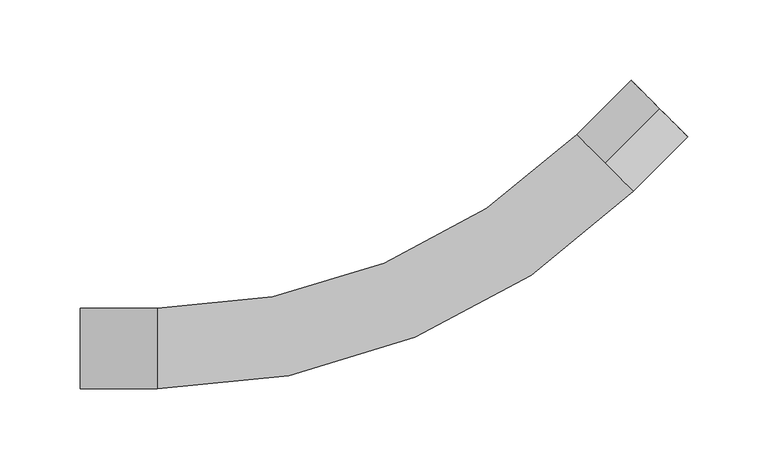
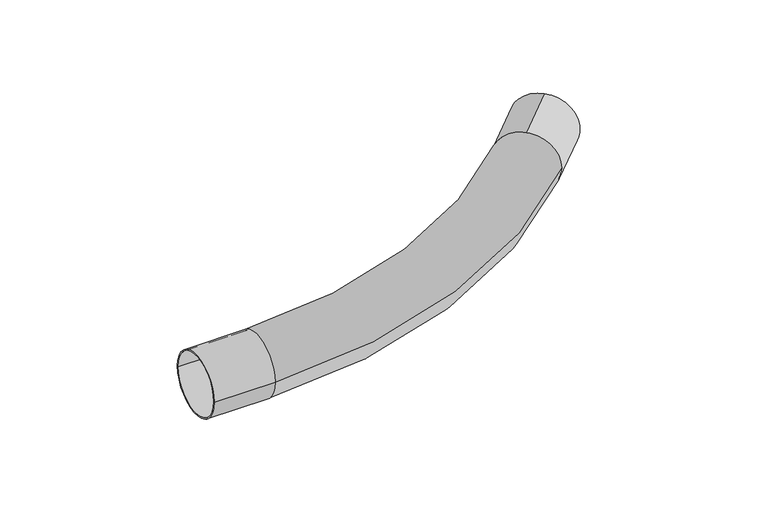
"""IFC4 building model written with IfcOpenShell, lengths in millimetres: cable carrier fitting geometry, КНС_МуфтаГибкаяТрубаТруба_IP65_DKC : Коробка."""

from ifc_helpers import new_model, si_unit, point, frame, origin, place, context, project, spatial, polyline, circle_curve, ellipse_curve, trimmed, source, transform, mapped, element, save
from ifc_brep_helpers import plane_surface, cylinder_surface, revolved_surface, advanced_brep


def cable_carrier_fitting_4c3340ee(model_context):
    return source(origin(), model_context, "Body", "AdvancedBrep", [
        advanced_brep(
        [(-211.4918571, -25.0, 0.0), (-211.4918571, 25.0, 0.0), (-211.4918571, -24.0, 0.0), (-211.4918571, 24.0, 0.0), (-163.4918571, -25.0, 0.0), (-163.4918571, 25.0, 0.0), (-163.4918571, -24.0, 0.0), (-163.4918571, 24.0, 0.0), (115.6062009, 115.6062009, 24.0), (115.6062009, 115.6062009, -24.0), (133.2838704, 97.9285313, 0.0), (115.6062009, 115.6062009, 25.0), (97.9285313, 133.2838704, 0.0), (115.6062009, 115.6062009, -25.0), (149.5473264, 149.5473264, -25.0), (149.5473264, 149.5473264, 25.0), (149.5473264, 149.5473264, -24.0), (149.5473264, 149.5473264, 24.0)],
        [
            (0, 1, circle_curve(frame((-211.4918571, 0.0, 0.0), z_axis=(-1.0, 0.0, 0.0), x_axis=(0.0, 1.0, 0.0)), 25.0)),
            (1, 0, circle_curve(frame((-211.4918571, 0.0, 0.0), z_axis=(-1.0, 0.0, 0.0), x_axis=(0.0, 1.0, 0.0)), 25.0)),
            (2, 3, circle_curve(frame((-211.4918571, 0.0, 0.0), z_axis=(1.0, 0.0, 0.0), x_axis=(0.0, 1.0, 0.0)), 24.0)),
            (3, 2, circle_curve(frame((-211.4918571, 0.0, 0.0), z_axis=(1.0, 0.0, 0.0), x_axis=(0.0, 1.0, 0.0)), 24.0)),
            (0, 4),
            (4, 5, circle_curve(frame((-163.4918571, 0.0, 0.0), z_axis=(-1.0, 0.0, 0.0), x_axis=(0.0, 1.0, 0.0)), 25.0)),
            (5, 1),
            (5, 4, circle_curve(frame((-163.4918571, 0.0, 0.0), z_axis=(-1.0, 0.0, 0.0), x_axis=(0.0, 1.0, 0.0)), 25.0)),
            (2, 6),
            (6, 7, circle_curve(frame((-163.4918571, 0.0, 0.0), z_axis=(1.0, 0.0, 0.0), x_axis=(0.0, 1.0, 0.0)), 24.0)),
            (7, 3),
            (7, 6, circle_curve(frame((-163.4918571, 0.0, 0.0), z_axis=(1.0, 0.0, 0.0), x_axis=(0.0, 1.0, 0.0)), 24.0)),
            (8, 9, circle_curve(frame((115.6062009, 115.6062009, 0.0), z_axis=(0.7071067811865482, 0.707106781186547, 0.0), x_axis=(0.0, 0.0, 1.0)), 24.0)),
            (9, 8, circle_curve(frame((115.6062009, 115.6062009, 0.0), z_axis=(0.7071067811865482, 0.707106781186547, 0.0), x_axis=(0.0, 0.0, 1.0)), 24.0)),
            (4, 10, circle_curve(frame((-163.4918571, 394.7042589, 0.0), z_axis=(0.0, 0.0, 1.0), x_axis=(0.7071067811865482, -0.7071067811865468, 0.0)), 419.7042589)),
            (10, 11, circle_curve(frame((115.6062009, 115.6062009, 0.0), z_axis=(-0.7071067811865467, -0.7071067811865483, 0.0), x_axis=(0.7071067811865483, -0.7071067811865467, 0.0)), 25.0)),
            (11, 12, circle_curve(frame((115.6062009, 115.6062009, 0.0), z_axis=(-0.707106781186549, -0.707106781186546, 0.0), x_axis=(0.707106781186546, -0.707106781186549, 0.0)), 25.0)),
            (12, 5, circle_curve(frame((-163.4918571, 394.7042589, 0.0), z_axis=(0.0, 0.0, -1.0), x_axis=(0.7071067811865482, -0.7071067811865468, 0.0)), 369.7042589)),
            (12, 13, circle_curve(frame((115.6062009, 115.6062009, 0.0), z_axis=(-0.7071067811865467, -0.7071067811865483, 0.0), x_axis=(0.7071067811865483, -0.7071067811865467, 0.0)), 25.0)),
            (13, 10, circle_curve(frame((115.6062009, 115.6062009, 0.0), z_axis=(-0.707106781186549, -0.707106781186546, 0.0), x_axis=(0.707106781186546, -0.707106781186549, 0.0)), 25.0)),
            (14, 15, circle_curve(frame((149.5473264, 149.5473264, 0.0), z_axis=(0.7071067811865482, 0.707106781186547, 0.0), x_axis=(0.0, 0.0, 1.0)), 25.0)),
            (15, 14, circle_curve(frame((149.5473264, 149.5473264, 0.0), z_axis=(0.7071067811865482, 0.707106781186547, 0.0), x_axis=(0.0, 0.0, 1.0)), 25.0)),
            (16, 17, circle_curve(frame((149.5473264, 149.5473264, 0.0), z_axis=(-0.7071067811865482, -0.707106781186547, 0.0), x_axis=(0.0, 0.0, 1.0)), 24.0)),
            (17, 16, circle_curve(frame((149.5473264, 149.5473264, 0.0), z_axis=(-0.7071067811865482, -0.707106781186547, 0.0), x_axis=(0.0, 0.0, 1.0)), 24.0)),
            (14, 13),
            (11, 15),
            (16, 9),
            (8, 17),
        ],
        [
            plane_surface(frame((-211.4918571, 0.0, 0.0), z_axis=(-1.0, 0.0, 0.0), x_axis=(0.0, 0.0, 1.0))),
            cylinder_surface(frame((-211.4918571, 0.0, 0.0), z_axis=(-1.0, 0.0, 0.0), x_axis=(0.0, 1.0, 0.0)), 25.0),
            revolved_surface(polyline([(-163.4918571, 24.0, 0.0), (-211.4918571, 24.0, 0.0)]), (-211.4918571, 0.0, 0.0), (1.0, 0.0, 0.0)),
            plane_surface(frame((115.6062009, 115.6062009, 0.0), z_axis=(0.7071067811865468, 0.7071067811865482, 0.0), x_axis=(0.0, 0.0, 1.0))),
            plane_surface(frame((-163.4918571, 0.0, 0.0), z_axis=(-1.0, 0.0, 0.0), x_axis=(0.0, 0.0, 1.0))),
            revolved_surface(trimmed(ellipse_curve(frame((115.6062009, 115.6062009, 0.0), z_axis=(0.7071067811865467, 0.7071067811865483, 0.0), x_axis=(0.7071067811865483, -0.7071067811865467, 0.0)), 25.0, 25.0), [point((97.9285313, 133.2838704, 0.0))], [point((133.2838704, 97.9285313, 0.0))], True, "CARTESIAN"), (-163.4918571, 394.7042589, 0.0), (0.0, 0.0, -1.0)),
            revolved_surface(trimmed(ellipse_curve(frame((115.6062009, 115.6062009, 0.0), z_axis=(0.7071067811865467, 0.7071067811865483, 0.0), x_axis=(0.7071067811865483, -0.7071067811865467, 0.0)), 25.0, 25.0), [point((133.2838704, 97.9285313, 0.0))], [point((97.9285313, 133.2838704, 0.0))], True, "CARTESIAN"), (-163.4918571, 394.7042589, 0.0), (0.0, 0.0, -1.0)),
            plane_surface(frame((149.5473264, 149.5473264, 25.0), z_axis=(0.7071067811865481, 0.7071067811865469, 0.0), x_axis=(0.7071067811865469, -0.7071067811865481, 0.0))),
            cylinder_surface(frame((115.6062009, 115.6062009, 0.0), z_axis=(0.7071067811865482, 0.707106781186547, 0.0), x_axis=(0.0, 0.0, 1.0)), 25.0),
            revolved_surface(polyline([(115.6062009, 115.6062009, 24.0), (149.54732640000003, 149.54732639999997, 24.0)]), (115.6062009, 115.6062009, 0.0), (-0.7071067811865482, -0.707106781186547, 0.0)),
        ],
        [
            (0, [[1, 2], [3, 4]]),
            (1, [[-1, 5, 6, 7]]),
            (1, [[-2, -7, 8, -5]]),
            (2, [[-3, 9, 10, 11]]),
            (2, [[-4, -11, 12, -9]]),
            (3, [[13, 14]]),
            (4, [[-10, -12]]),
            (5, [[15, 16, 17, 18, -6]]),
            (6, [[-15, -8, -18, 19, 20]]),
            (7, [[21, 22], [23, 24]]),
            (8, [[-21, 25, -19, -17, 26]]),
            (8, [[-22, -26, -16, -20, -25]]),
            (9, [[-23, 27, -13, 28]]),
            (9, [[-24, -28, -14, -27]]),
        ],
    ),
    ])


if __name__ == "__main__":
    model = new_model("IFC4")
    model_context = context("Model", 3, world=origin())
    ifc_project = project(units=[si_unit("LENGTHUNIT", "METRE", prefix="MILLI")], contexts=[model_context])
    site = spatial("IfcSite", under=ifc_project)
    building = spatial("IfcBuilding", under=site)
    placement = place(None, origin())
    cable_carrier_fitting_shape = cable_carrier_fitting_4c3340ee(model_context)
    element("IfcCableCarrierFitting", 1, ObjectType="КНС_МуфтаГибкаяТрубаТруба_IP65_DKC : Коробка", at=placement, inside=building, context=model_context, shape_type="MappedRepresentation", body=[
        mapped(cable_carrier_fitting_shape, transform((0.0, 0.0, 0.0), x_axis=(1.0, 0.0, 0.0), y_axis=(0.0, 1.0, 0.0), z_axis=(0.0, 0.0, 1.0))),
    ])
    save(model, "model.ifc")
